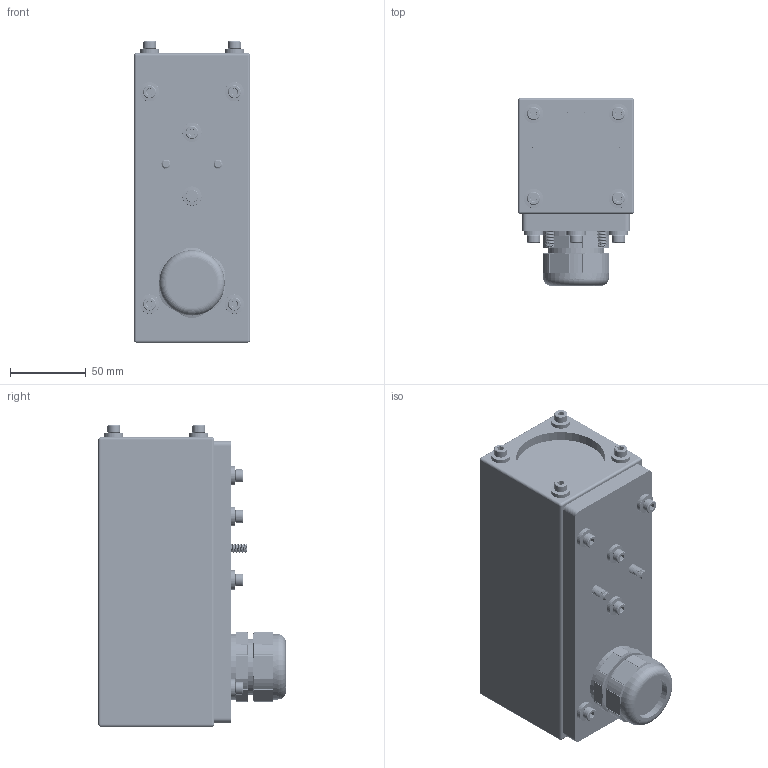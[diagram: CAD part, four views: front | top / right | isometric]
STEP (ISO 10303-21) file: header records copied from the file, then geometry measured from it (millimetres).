
FILE_DESCRIPTION (( 'STEP AP203' ), '1' );
FILE_NAME ('30D-GI.STEP', '2022-11-15T12:07:44', ( '' ), ( '' ), 'SwSTEP 2.0', 'SolidWorks 2021', '' );
FILE_SCHEMA (( 'CONFIG_CONTROL_DESIGN' ));
Length unit declared in the file: inch
Products named in the file (21): PG29-I01; 400108; 94709A212; 30D-GI; PG29-N03; 201524; 200400; PG29-01-01-01-03; SP-M5-2; 9452K140_9452K14; 93625A200; 200343; 91292A128; PG29-S01; PG29-B01; 200305; 500104; 400109; 94709A214; 91292A137; 200401
Assembly tree (51 placements, depth 3):
  30D-GI
    200305
    200401
      200400
      SP-M5-2  x4
    400108
    400109
    500104
    200343
    201524
    93625A200  x6
    94709A212  x10
    91292A128  x10
    94709A214  x2
    91292A137  x2
    9452K140_9452K14  x4
    PG29-01-01-01-03
      PG29-B01
      PG29-I01
      PG29-S01
      PG29-N03
Bounding box: 76.2 x 123.31 x 198.35 mm (x, y, z)
Volume: 294808.5 mm3; surface area: 235141.6 mm2
Topology: 68 solids, 68 shells, 1468 faces, 3415 edges, 2139 vertices
Faces by surface type: plane 604, cylinder 458, cone 266, sphere 56, bspline 42, torus 42
Full cylindrical faces by diameter (mm): 3.048 x4, 3.4 x6, 4 x6, 5 x30, 5.08 x20, 5.2 x4, 5.5 x2, 5.537 x1, 5.7 x4, 6.35 x14, 6.604 x4, 6.909 x4, 7.937 x4, 8.5 x10, 10 x2, 12.7 x24, 28 x1, 31 x1, 31.5 x1, 32.5 x1, 35 x1, 37 x2, 37.465 x1, 43.5 x1, 58.42 x3
Entity records: 28295 total; most frequent: CARTESIAN_POINT 10058, DIRECTION 3189, ORIENTED_EDGE 2972, EDGE_CURVE 1486, AXIS2_PLACEMENT_3D 1236, VERTEX_POINT 987, EDGE_LOOP 861, FACE_OUTER_BOUND 726
